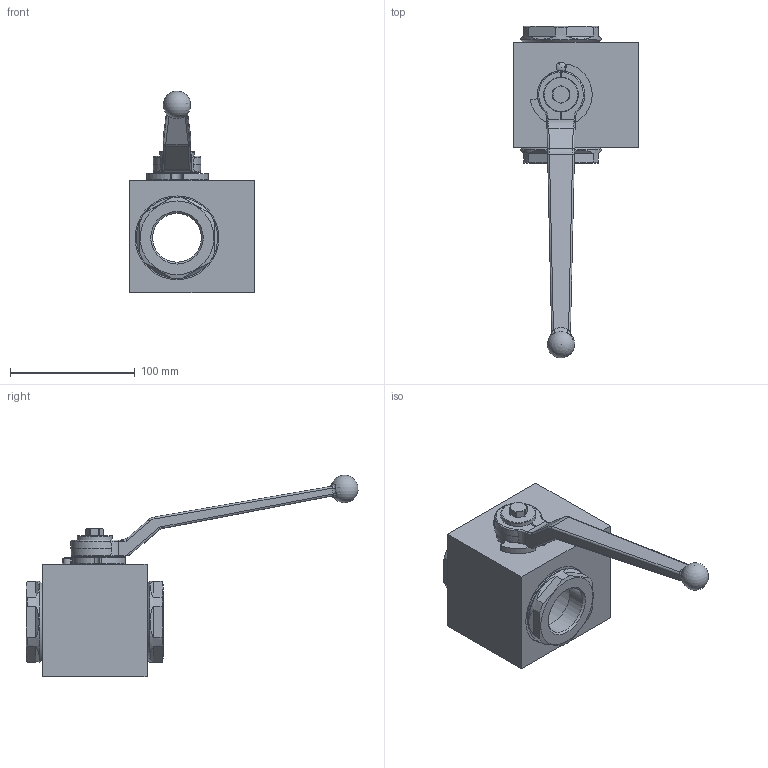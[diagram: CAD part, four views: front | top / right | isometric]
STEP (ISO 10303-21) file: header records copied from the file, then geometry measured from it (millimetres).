
FILE_DESCRIPTION( ( 'Unknown' ), '1' );
FILE_NAME( 'H:/PISTER/3D-MODELLE/BK3-Edelstahl stp/BK3-Edelst DN32 G5_4.stp', 'Unknown', ( 'Unknown' ), ( 'Unknown' ), 'PSStep 14.0', 'Unknown', ' ' );
FILE_SCHEMA( ( 'AUTOMOTIVE_DESIGN { 1 0 10303 214 1 1 1 1 }' ) );
Length unit declared in the file: millimetre
Products named in the file (10): Assem1; 02-040-001-oa1; 04-032-002-oa2; 56-032-140-oa11; 09-17-002; 58-1473-020-oa12; 58-0440-008; 58-0933-262; Griff_SW17_; 01-032-006-oa13
Assembly tree (9 placements, depth 2):
  Assem1
    02-040-001-oa1
    04-032-002-oa2
    56-032-140-oa11
    09-17-002
    58-1473-020-oa12
    58-0440-008
    58-0933-262
    Griff_SW17_
    01-032-006-oa13
Bounding box: 100 x 265.82 x 161.5 mm (x, y, z)
Volume: 581161.5 mm3; surface area: 107003.3 mm2
Topology: 9 solids, 9 shells, 287 faces, 753 edges, 481 vertices
Faces by surface type: plane 120, cylinder 91, cone 32, torus 23, bspline 18, sphere 3
Full cylindrical faces by diameter (mm): 6.647 x1, 7.98 x1, 8 x1, 9.2 x1, 24 x2, 28 x1, 30 x1, 32 x1, 38.95 x3, 40 x1, 56.2 x2, 56.35 x2, 60 x3, 65 x3, 67 x2
Entity records: 12674 total; most frequent: CARTESIAN_POINT 3581, DIRECTION 1408, ORIENTED_EDGE 1322, EDGE_CURVE 661, AXIS2_PLACEMENT_3D 564, VERTEX_POINT 451, EDGE_LOOP 362, FACE_OUTER_BOUND 319
